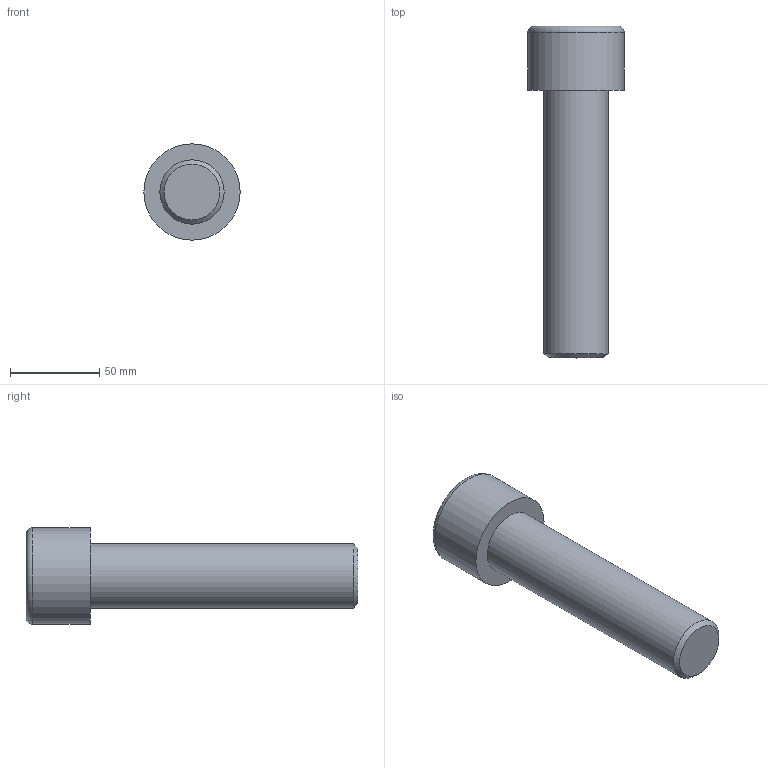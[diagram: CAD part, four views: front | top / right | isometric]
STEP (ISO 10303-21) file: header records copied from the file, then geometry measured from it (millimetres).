
FILE_DESCRIPTION(/* description */ (''),/* implementation_level */ '2;1');
FILE_NAME(/* name */ 'C:\Users\D\Documents\Inventor\各種小物\JIS\JIS B 1176 六角穴付きボルト\M36x150.stp',/* time_stamp */ '2022-05-09T19:04:01+09:00',/* author */ ('D'),/* organization */ (''),/* preprocessor_version */ 'ST-DEVELOPER v18',/* originating_system */ 'Autodesk Inventor 2020',/* authorisation */ '');
FILE_SCHEMA (('AUTOMOTIVE_DESIGN { 1 0 10303 214 3 1 1 }'));
Length unit declared in the file: millimetre
Products named in the file (1): M1.6x2.5
Bounding box: 54 x 186 x 54 mm (x, y, z)
Volume: 220124.8 mm3; surface area: 29163.1 mm2
Topology: 1 solids, 1 shells, 14 faces, 33 edges, 22 vertices
Faces by surface type: plane 9, cone 2, cylinder 2, torus 1
Full cylindrical faces by diameter (mm): 36 x1, 54 x1
Entity records: 435 total; most frequent: CARTESIAN_POINT 83, ORIENTED_EDGE 64, DIRECTION 64, EDGE_CURVE 32, AXIS2_PLACEMENT_3D 24, VERTEX_POINT 22, EDGE_LOOP 16, LINE 16
